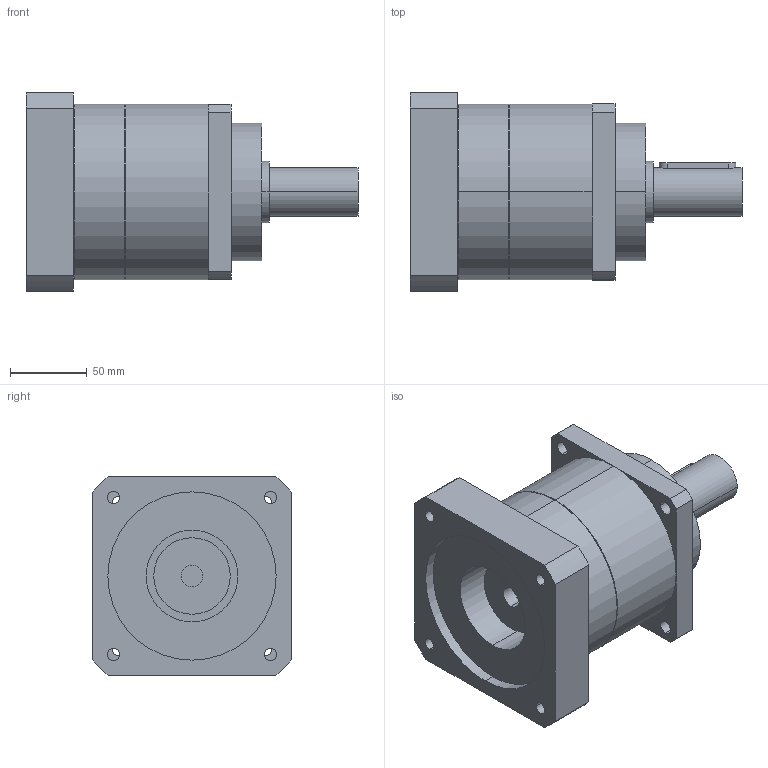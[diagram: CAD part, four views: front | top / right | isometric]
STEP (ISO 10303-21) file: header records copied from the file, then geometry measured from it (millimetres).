
FILE_DESCRIPTION(('CoCreate Modeling STEP Export'),'2;1');
FILE_NAME('GPT120_ig-3-4-5-7-10_32_B5A_14_P11.stp','2015-02-04T16:07:20',(''),(''),'CoCreate Modeling STEP processor for AP214 (Solid Model)','CoCreate Modeling 16.00C 25-Feb-2009 (C) Parametric Technology GmbH','');
FILE_SCHEMA(('AUTOMOTIVE_DESIGN { 1 0 10303 214 1 1 1 1 }'));
Length unit declared in the file: millimetre
Products named in the file (2): GPT120_ig-3-4-5-7-10_32_B5A_14_P11
Assembly tree (1 placements, depth 2):
  GPT120_ig-3-4-5-7-10_32_B5A_14_P11
    GPT120_ig-3-4-5-7-10_32_B5A_14_P11
Bounding box: 217 x 130 x 130 mm (x, y, z)
Volume: 1673080.4 mm3; surface area: 119989.5 mm2
Topology: 1 solids, 1 shells, 77 faces, 207 edges, 142 vertices
Faces by surface type: cylinder 46, plane 27, cone 4
Entity records: 2583 total; most frequent: CARTESIAN_POINT 762, ORIENTED_EDGE 414, DIRECTION 320, EDGE_CURVE 207, VERTEX_POINT 142, AXIS2_PLACEMENT_3D 118, EDGE_LOOP 103, VECTOR 84
